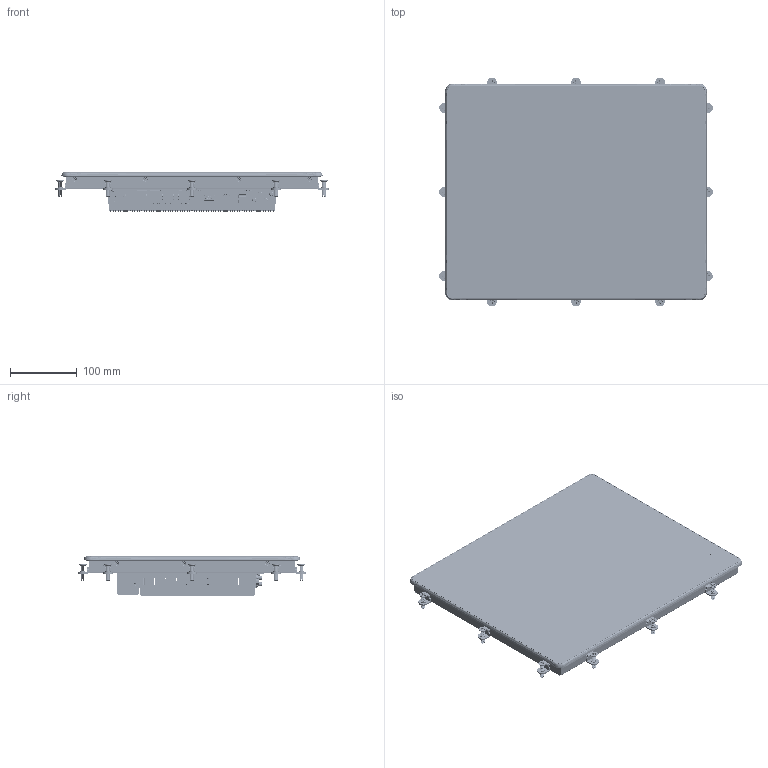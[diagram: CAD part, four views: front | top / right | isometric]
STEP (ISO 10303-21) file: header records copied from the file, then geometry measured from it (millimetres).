
FILE_DESCRIPTION((''),'2;1');
FILE_NAME('NP6A-170','2026-06-02T11:32:06',('gijyu181'),(''),'CREO PARAMETRIC BY PTC INC, 2018050','CREO PARAMETRIC BY PTC INC, 2018050','');
FILE_SCHEMA(('CONFIG_CONTROL_DESIGN','SHAPE_APPEARANCE_LAYERS_GROUPS'));
Products named in the file (1): NP6A-170
Bounding box: 410.1 x 342.6 x 58.5 mm (x, y, z)
Volume: 2282193.2 mm3; surface area: 1279396.7 mm2
Topology: 21 solids, 95 shells, 34442 faces, 101082 edges, 66720 vertices
Faces by surface type: plane 23087, cylinder 8482, extrusion 1476, bspline 610, cone 498, torus 197, sphere 88, revolution 4
Entity records: 1381495 total; most frequent: CARTESIAN_POINT 332862, ORIENTED_EDGE 201259, DIRECTION 177316, EDGE_CURVE 101026, VECTOR 79248, LINE 77772, VERTEX_POINT 66721, AXIS2_PLACEMENT_3D 49032
